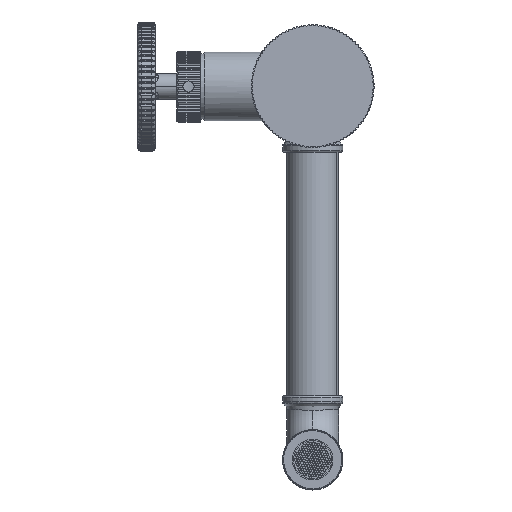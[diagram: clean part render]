
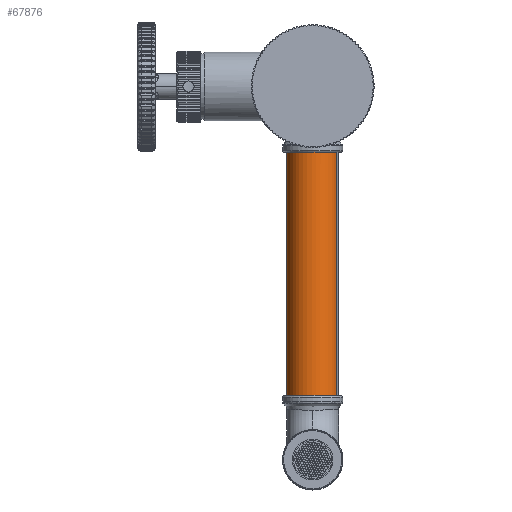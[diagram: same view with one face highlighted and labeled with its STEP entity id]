
A CAD part, left-side view. The second image highlights one B-rep face of the part: STEP entity #67876.
In plain terms, the highlighted cylindrical face has radius 12 mm (diameter 24 mm), a partial arc.
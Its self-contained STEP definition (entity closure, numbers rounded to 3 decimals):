
#5504 = CARTESIAN_POINT ( 'NONE',  ( 71.361, -24.346, -64.612 ) ) ;
#8377 = VERTEX_POINT ( 'NONE', #132067 ) ;
#9699 = CARTESIAN_POINT ( 'NONE',  ( 67.016, -23.353, 49.407 ) ) ;
#15465 = CIRCLE ( 'NONE', #101411, 12. ) ;
#17515 = FACE_OUTER_BOUND ( 'NONE', #83624, .T. ) ;
#20116 = CIRCLE ( 'NONE', #131339, 12. ) ;
#21045 = VECTOR ( 'NONE', #151736, 1000. ) ;
#30186 = CARTESIAN_POINT ( 'NONE',  ( 62.2, -46.343, 49.924 ) ) ;
#31431 = EDGE_CURVE ( 'NONE', #45038, #75292, #138540, .T. ) ;
#32330 = CARTESIAN_POINT ( 'NONE',  ( 67.016, -35.353, 49.405 ) ) ;
#35581 = CARTESIAN_POINT ( 'NONE',  ( 66.543, -23.336, -64.592 ) ) ;
#39379 = ORIENTED_EDGE ( 'NONE', *, *, #152595, .T. ) ;
#40511 = AXIS2_PLACEMENT_3D ( 'NONE', #42786, #54682, #90283 ) ;
#40771 = VERTEX_POINT ( 'NONE', #9699 ) ;
#41264 = DIRECTION ( 'NONE',  ( 0., -1., 0. ) ) ;
#42786 = CARTESIAN_POINT ( 'NONE',  ( 67.018, -35.353, 49.905 ) ) ;
#43460 = ORIENTED_EDGE ( 'NONE', *, *, #109288, .T. ) ;
#43713 = DIRECTION ( 'NONE',  ( 0., -1., 0. ) ) ;
#44179 = DIRECTION ( 'NONE',  ( 0., 1., 0. ) ) ;
#45038 = VERTEX_POINT ( 'NONE', #132975 ) ;
#53286 = CARTESIAN_POINT ( 'NONE',  ( 66.543, -35.336, -64.594 ) ) ;
#54328 = ORIENTED_EDGE ( 'NONE', *, *, #31431, .F. ) ;
#54682 = DIRECTION ( 'NONE',  ( -0.004, 0., -1. ) ) ;
#56010 = CARTESIAN_POINT ( 'NONE',  ( 71.837, -24.363, 49.887 ) ) ;
#58183 = CARTESIAN_POINT ( 'NONE',  ( 67.016, -35.353, 49.405 ) ) ;
#63117 = ORIENTED_EDGE ( 'NONE', *, *, #123496, .T. ) ;
#64285 = ORIENTED_EDGE ( 'NONE', *, *, #101841, .T. ) ;
#67876 = ADVANCED_FACE ( 'NONE', ( #17515 ), #126669, .T. ) ;
#69011 = VERTEX_POINT ( 'NONE', #5504 ) ;
#75292 = VERTEX_POINT ( 'NONE', #112834 ) ;
#83624 = EDGE_LOOP ( 'NONE', ( #63117, #64285, #39379, #43460, #54328, #117271 ) ) ;
#90283 = DIRECTION ( 'NONE',  ( -0.402, -0.916, 0.002 ) ) ;
#90728 = EDGE_CURVE ( 'NONE', #45038, #40771, #15465, .T. ) ;
#101411 = AXIS2_PLACEMENT_3D ( 'NONE', #32330, #128058, #44179 ) ;
#101841 = EDGE_CURVE ( 'NONE', #8377, #69011, #152486, .T. ) ;
#102575 = VERTEX_POINT ( 'NONE', #35581 ) ;
#103044 = CARTESIAN_POINT ( 'NONE',  ( 66.543, -35.336, -64.594 ) ) ;
#109288 = EDGE_CURVE ( 'NONE', #102575, #75292, #20116, .T. ) ;
#112834 = CARTESIAN_POINT ( 'NONE',  ( 61.724, -46.326, -64.575 ) ) ;
#114076 = AXIS2_PLACEMENT_3D ( 'NONE', #58183, #128564, #117513 ) ;
#117271 = ORIENTED_EDGE ( 'NONE', *, *, #90728, .T. ) ;
#117513 = DIRECTION ( 'NONE',  ( 0., 1., 0. ) ) ;
#121642 = VECTOR ( 'NONE', #126655, 1000. ) ;
#123496 = EDGE_CURVE ( 'NONE', #40771, #8377, #129151, .T. ) ;
#126655 = DIRECTION ( 'NONE',  ( -0.004, 0., -1. ) ) ;
#126669 = CYLINDRICAL_SURFACE ( 'NONE', #40511, 12. ) ;
#128058 = DIRECTION ( 'NONE',  ( -0.004, 0., -1. ) ) ;
#128564 = DIRECTION ( 'NONE',  ( -0.004, 0., -1. ) ) ;
#129151 = CIRCLE ( 'NONE', #114076, 12. ) ;
#131339 = AXIS2_PLACEMENT_3D ( 'NONE', #53286, #139470, #43713 ) ;
#132067 = CARTESIAN_POINT ( 'NONE',  ( 71.835, -24.363, 49.387 ) ) ;
#132975 = CARTESIAN_POINT ( 'NONE',  ( 62.198, -46.343, 49.424 ) ) ;
#134174 = CIRCLE ( 'NONE', #149309, 12. ) ;
#138540 = LINE ( 'NONE', #30186, #121642 ) ;
#139364 = DIRECTION ( 'NONE',  ( 0.004, 0., 1. ) ) ;
#139470 = DIRECTION ( 'NONE',  ( 0.004, 0., 1. ) ) ;
#149309 = AXIS2_PLACEMENT_3D ( 'NONE', #103044, #139364, #41264 ) ;
#151736 = DIRECTION ( 'NONE',  ( -0.004, 0., -1. ) ) ;
#152486 = LINE ( 'NONE', #56010, #21045 ) ;
#152595 = EDGE_CURVE ( 'NONE', #69011, #102575, #134174, .T. ) ;
